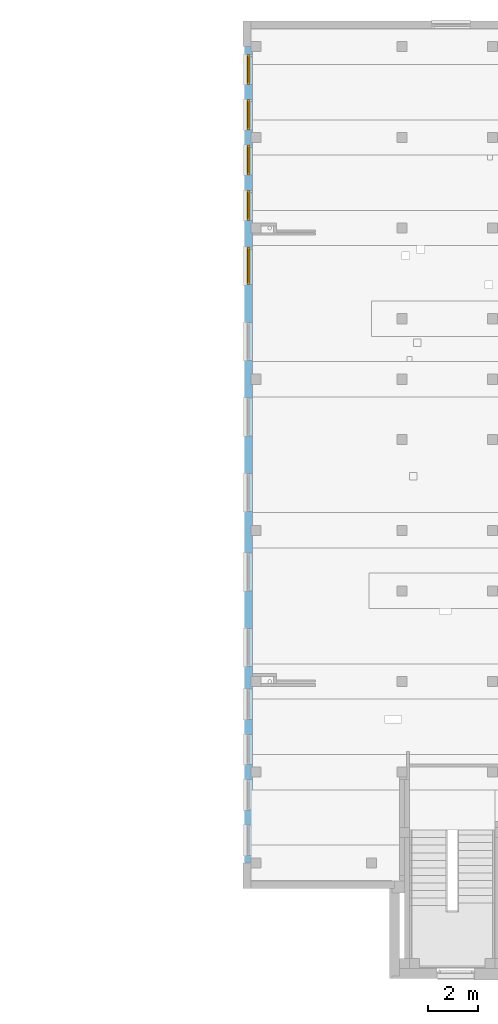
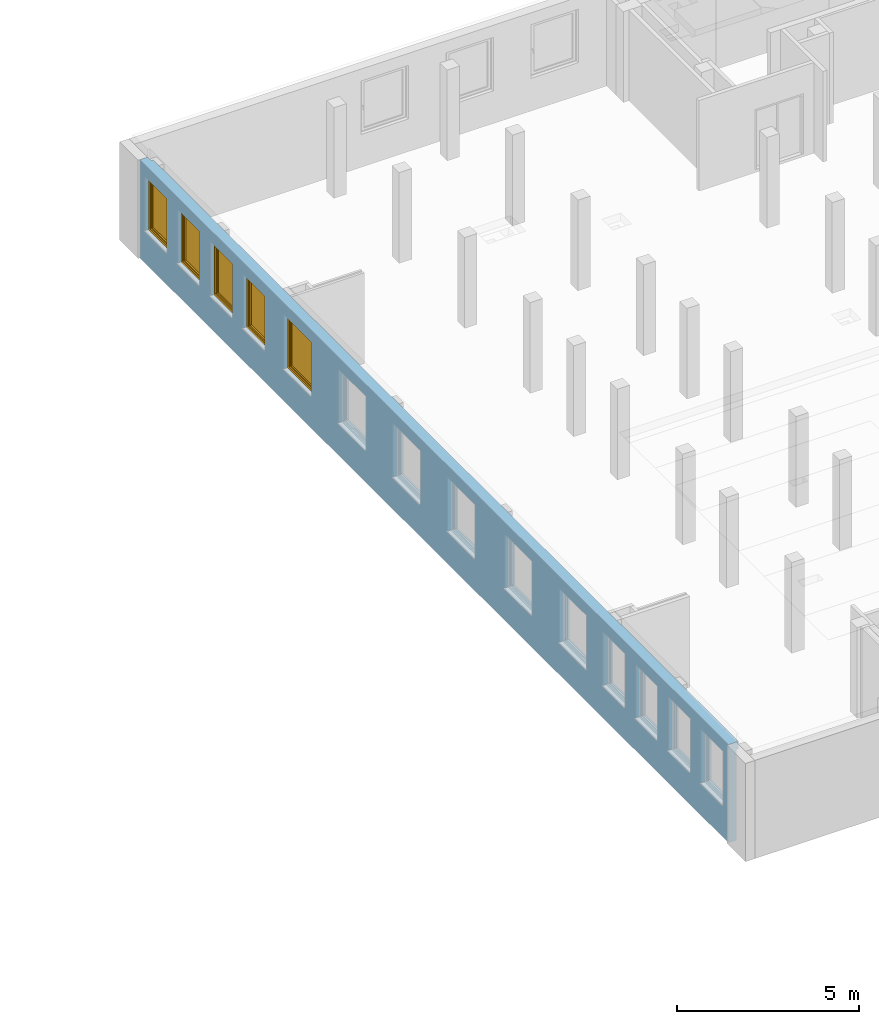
# One storey, part 8 of 27: 5 windows, 14 openings, plus 1 element that does not belong to this part.
"""IFC4 building model written with IfcOpenShell, lengths in metres."""

from ifc_helpers import new_model, entity, si_unit, converted_unit, derived_unit, frame, origin, origin_with_axes, place, context, subcontext, project, spatial, polyline, outline, extrude, clip, bounded_halfspace, closed_shell, open_shell, surface_model, source, transform, mapped, material, layer, layer_set, layer_usage, element, fill, save


model = new_model("IFC4")

# Units and contexts
model_context = context("Model", 3, precision=1e-05, world=origin())
body_context = subcontext(model_context, "Body", "Model", "MODEL_VIEW")
ifc_project = project(units=[si_unit("LENGTHUNIT", "METRE"), si_unit("AREAUNIT", "SQUARE_METRE"), si_unit("VOLUMEUNIT", "CUBIC_METRE"), si_unit("MASSUNIT", "GRAM", prefix="KILO"), converted_unit("PLANEANGLEUNIT", "DEGREE", entity("IfcPlaneAngleMeasure", 0.0174532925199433), si_unit("PLANEANGLEUNIT", "RADIAN"), dimensions=[0, 0, 0, 0, 0, 0, 0]), derived_unit("THERMALTRANSMITTANCEUNIT", [(si_unit("POWERUNIT", "WATT"), 1), (si_unit("THERMODYNAMICTEMPERATUREUNIT", "KELVIN"), -1), (si_unit("LENGTHUNIT", "METRE"), -2)]), derived_unit("VOLUMETRICFLOWRATEUNIT", [(si_unit("LENGTHUNIT", "METRE"), 3), (converted_unit("TIMEUNIT", "hour", entity("IfcTimeMeasure", 3600.0), si_unit("TIMEUNIT", "SECOND"), dimensions=[0, 0, 1, 0, 0, 0, 0]), -1), (si_unit("LENGTHUNIT", "METRE"), -1)])], contexts=[model_context])

# Site, building, storey
site_placement = place(None, origin())
site = spatial("IfcSite", under=ifc_project, at=site_placement, Name="3. ASŘ", CompositionType="ELEMENT")
building_placement = place(site_placement, origin())
building = spatial("IfcBuilding", under=site, at=building_placement, Name="Pavilon C", CompositionType="ELEMENT")
storey_placement = place(building_placement, frame((0.0, 0.0, 10.5)))
storey = spatial("IfcBuildingStorey", under=building, at=storey_placement, Name="Půdorys 4.NP", CompositionType="ELEMENT", Elevation=10.5)

# Wall, openings, windows
ifc_material = material(Name="ZELEZOBETONOVÁ KCE")
ifc_layer = layer(ifc_material, 0.32)
ifc_layer_set = layer_set([ifc_layer])
ifc_layer_usage = layer_usage(ifc_layer_set, "AXIS2", "POSITIVE", 0.0)
wall_placement = place(storey_placement, frame((24.5, 32.4, -0.1), z_axis=(0.0, 0.0, 1.0), x_axis=(-2.24566593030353e-16, -1.0, 0.0)))
wall = element("IfcWall", 1, at=wall_placement, inside=storey, material=ifc_layer_usage, Name="ZELEZOBETONOVÁ KCE", context=body_context, shape_type="Clipping", body=[
    clip(clip(clip(clip(clip(clip(clip(extrude(outline(polyline([(-32.4, 0.0), (-7.18613097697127e-17, -1.61376495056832e-32), (-7.18613097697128e-17, 0.32), (-32.2, 0.32), (-32.2, 0.25), (-32.4, 0.25), (-32.4, 0.0)])), frame((32.4, 0.0, 0.0), z_axis=(0.0, 0.0, 1.0), x_axis=(1.0, 0.0, 0.0)), (0.0, 0.0, 1.0), 3.3), bounded_halfspace(frame((13.2, 0.284999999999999, 3.05), z_axis=(0.0, 0.0, 1.0), x_axis=(2.24566593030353e-16, -1.0, 0.0)), True, origin_with_axes(), polyline([(13.0, 0.319999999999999), (13.0, 0.250000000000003), (13.4, 0.250000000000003), (13.4, 0.319999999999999), (13.0, 0.319999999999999)]))), bounded_halfspace(frame((25.2, 0.284999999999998, 3.05), z_axis=(0.0, 0.0, 1.0), x_axis=(2.24566593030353e-16, -1.0, 0.0)), True, origin_with_axes(), polyline([(25.0, 0.319999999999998), (25.0, 0.249999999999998), (25.4, 0.249999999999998), (25.4, 0.319999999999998), (25.0, 0.319999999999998)]))), bounded_halfspace(frame((28.8, 0.284999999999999, 3.05), z_axis=(0.0, 0.0, 1.0), x_axis=(2.24566593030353e-16, -1.0, 0.0)), True, origin_with_axes(), polyline([(28.6, 0.319999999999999), (28.6, 0.249999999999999), (29.0, 0.249999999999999), (29.0, 0.319999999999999), (28.6, 0.319999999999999)]))), bounded_halfspace(frame((19.2, 0.285000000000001, 3.05), z_axis=(0.0, 0.0, 1.0), x_axis=(2.24566593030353e-16, -1.0, 0.0)), True, origin_with_axes(), polyline([(19.0, 0.320000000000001), (19.0, 0.249999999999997), (19.4, 0.249999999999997), (19.4, 0.320000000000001), (19.0, 0.320000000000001)]))), bounded_halfspace(frame((7.2, 0.285000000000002, 3.05), z_axis=(0.0, 0.0, 1.0), x_axis=(2.24566593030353e-16, -1.0, 0.0)), True, origin_with_axes(), polyline([(7.0, 0.320000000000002), (7.0, 0.250000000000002), (7.4, 0.250000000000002), (7.4, 0.320000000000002), (7.0, 0.320000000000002)]))), bounded_halfspace(frame((32.3, 0.285, 3.05), z_axis=(0.0, 0.0, 1.0), x_axis=(2.24566593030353e-16, -1.0, 0.0)), True, origin_with_axes(), polyline([(32.2, 0.32), (32.2, 0.25), (32.4, 0.25), (32.4, 0.32), (32.2, 0.32)]))), bounded_halfspace(frame((3.6, 0.284999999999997, 3.05), z_axis=(0.0, 0.0, 1.0), x_axis=(2.24566593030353e-16, -1.0, 0.0)), True, origin_with_axes(), polyline([(3.4, 0.320000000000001), (3.4, 0.249999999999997), (3.8, 0.249999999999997), (3.8, 0.320000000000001), (3.4, 0.320000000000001)]))),
])
opening_1_placement = place(wall_placement, frame((30.9, -3.36849889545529e-16, 1.1), z_axis=(0.0, 1.0, 0.0), x_axis=(0.0, 0.0, 1.0)))
element("IfcOpeningElement", 2, at=opening_1_placement, cuts=wall, Name="Okenní otvor", ObjectType="Opening", context=body_context, shape_type="SweptSolid", body=[
    extrude(outline(polyline([(0.0, 1.2), (1.8, 1.2), (1.8, 0.0), (0.0, 0.0), (0.0, 1.2)])), origin_with_axes(), (0.0, 0.0, 1.0), 0.32),
])
opening_2_placement = place(wall_placement, frame((29.1, -7.41069757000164e-16, 1.1), z_axis=(0.0, 1.0, 0.0), x_axis=(0.0, 0.0, 1.0)))
element("IfcOpeningElement", 3, at=opening_2_placement, cuts=wall, Name="Okenní otvor", ObjectType="Opening", context=body_context, shape_type="SweptSolid", body=[
    extrude(outline(polyline([(0.0, 1.2), (1.8, 1.2), (1.8, 0.0), (0.0, 0.0), (0.0, 1.2)])), origin_with_axes(), (0.0, 0.0, 1.0), 0.32),
])
opening_3_placement = place(wall_placement, frame((27.3, -1.1452896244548e-15, 1.1), z_axis=(0.0, 1.0, 0.0), x_axis=(0.0, 0.0, 1.0)))
element("IfcOpeningElement", 4, at=opening_3_placement, cuts=wall, Name="Okenní otvor", ObjectType="Opening", context=body_context, shape_type="SweptSolid", body=[
    extrude(outline(polyline([(0.0, 1.2), (1.8, 1.2), (1.8, 0.0), (0.0, 0.0), (0.0, 1.2)])), origin_with_axes(), (0.0, 0.0, 1.0), 0.32),
])
opening_4_placement = place(wall_placement, frame((25.5, -1.54950949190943e-15, 1.1), z_axis=(0.0, 1.0, 0.0), x_axis=(0.0, 0.0, 1.0)))
element("IfcOpeningElement", 5, at=opening_4_placement, cuts=wall, Name="Okenní otvor", ObjectType="Opening", context=body_context, shape_type="SweptSolid", body=[
    extrude(outline(polyline([(0.0, 1.2), (1.8, 1.2), (1.8, 0.0), (0.0, 0.0), (0.0, 1.2)])), origin_with_axes(), (0.0, 0.0, 1.0), 0.32),
])
opening_5_placement = place(wall_placement, frame((23.1, -2.08846931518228e-15, 1.1), z_axis=(0.0, 1.0, 0.0), x_axis=(0.0, 0.0, 1.0)))
element("IfcOpeningElement", 6, at=opening_5_placement, cuts=wall, Name="Okenní otvor", ObjectType="Opening", context=body_context, shape_type="SweptSolid", body=[
    extrude(outline(polyline([(0.0, 1.5), (1.8, 1.5), (1.8, 0.0), (0.0, 0.0), (0.0, 1.5)])), origin_with_axes(), (0.0, 0.0, 1.0), 0.320000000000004),
])
opening_6_placement = place(wall_placement, frame((20.1, 8.75809712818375e-16, 1.1), z_axis=(0.0, 1.0, 0.0), x_axis=(0.0, 0.0, 1.0)))
element("IfcOpeningElement", 7, at=opening_6_placement, cuts=wall, Name="Okenní otvor", ObjectType="Opening", context=body_context, shape_type="SweptSolid", body=[
    extrude(outline(polyline([(0.0, 1.5), (1.8, 1.5), (1.8, 0.0), (0.0, 0.0), (0.0, 1.5)])), origin_with_axes(), (0.0, 0.0, 1.0), 0.32),
])
opening_7_placement = place(wall_placement, frame((16.95, 1.68424944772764e-16, 1.1), z_axis=(0.0, 1.0, 0.0), x_axis=(0.0, 0.0, 1.0)))
element("IfcOpeningElement", 8, at=opening_7_placement, cuts=wall, Name="Okenní otvor", ObjectType="Opening", context=body_context, shape_type="SweptSolid", body=[
    extrude(outline(polyline([(0.0, 1.5), (1.8, 1.5), (1.8, 0.0), (0.0, 0.0), (0.0, 1.5)])), origin_with_axes(), (0.0, 0.0, 1.0), 0.32),
])
opening_8_placement = place(wall_placement, frame((13.95, -5.05274834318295e-16, 1.1), z_axis=(0.0, 1.0, 0.0), x_axis=(0.0, 0.0, 1.0)))
element("IfcOpeningElement", 9, at=opening_8_placement, cuts=wall, Name="Okenní otvor", ObjectType="Opening", context=body_context, shape_type="SweptSolid", body=[
    extrude(outline(polyline([(0.0, 1.5), (1.8, 1.5), (1.8, 0.0), (0.0, 0.0), (0.0, 1.5)])), origin_with_axes(), (0.0, 0.0, 1.0), 0.32),
])
opening_9_placement = place(wall_placement, frame((10.95, -1.17897461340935e-15, 1.1), z_axis=(0.0, 1.0, 0.0), x_axis=(0.0, 0.0, 1.0)))
element("IfcOpeningElement", 10, at=opening_9_placement, cuts=wall, Name="Okenní otvor", ObjectType="Opening", context=body_context, shape_type="SweptSolid", body=[
    extrude(outline(polyline([(0.0, 1.5), (1.8, 1.5), (1.8, 0.0), (0.0, 0.0), (0.0, 1.5)])), origin_with_axes(), (0.0, 0.0, 1.0), 0.32),
])
opening_10_placement = place(wall_placement, frame((7.95, -1.85267439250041e-15, 1.1), z_axis=(0.0, 1.0, 0.0), x_axis=(0.0, 0.0, 1.0)))
opening_10 = element("IfcOpeningElement", 11, at=opening_10_placement, cuts=wall, Name="Okenní otvor", ObjectType="Opening", context=body_context, shape_type="SweptSolid", body=[
    extrude(outline(polyline([(0.0, 1.5), (1.8, 1.5), (1.8, 0.0), (0.0, 0.0), (0.0, 1.5)])), origin_with_axes(), (0.0, 0.0, 1.0), 0.320000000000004),
])
opening_11_placement = place(wall_placement, frame((5.7, 1.28002958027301e-15, 1.1), z_axis=(0.0, 1.0, 0.0), x_axis=(0.0, 0.0, 1.0)))
opening_11 = element("IfcOpeningElement", 12, at=opening_11_placement, cuts=wall, Name="Okenní otvor", ObjectType="Opening", context=body_context, shape_type="SweptSolid", body=[
    extrude(outline(polyline([(0.0, 1.2), (1.8, 1.2), (1.8, 0.0), (0.0, 0.0), (0.0, 1.2)])), origin_with_axes(), (0.0, 0.0, 1.0), 0.32),
])
opening_12_placement = place(wall_placement, frame((3.90000000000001, 8.75809712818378e-16, 1.1), z_axis=(0.0, 1.0, 0.0), x_axis=(0.0, 0.0, 1.0)))
opening_12 = element("IfcOpeningElement", 13, at=opening_12_placement, cuts=wall, Name="Okenní otvor", ObjectType="Opening", context=body_context, shape_type="SweptSolid", body=[
    extrude(outline(polyline([(0.0, 1.2), (1.8, 1.2), (1.8, 0.0), (0.0, 0.0), (0.0, 1.2)])), origin_with_axes(), (0.0, 0.0, 1.0), 0.32),
])
opening_13_placement = place(wall_placement, frame((2.10000000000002, 4.71589845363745e-16, 1.1), z_axis=(0.0, 1.0, 0.0), x_axis=(0.0, 0.0, 1.0)))
opening_13 = element("IfcOpeningElement", 14, at=opening_13_placement, cuts=wall, Name="Okenní otvor", ObjectType="Opening", context=body_context, shape_type="SweptSolid", body=[
    extrude(outline(polyline([(0.0, 1.2), (1.8, 1.2), (1.8, 0.0), (0.0, 0.0), (0.0, 1.2)])), origin_with_axes(), (0.0, 0.0, 1.0), 0.32),
])
opening_14_placement = place(wall_placement, frame((0.300000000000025, 6.73699779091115e-17, 1.1), z_axis=(-1.77635683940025e-16, 1.0, 0.0), x_axis=(0.0, 0.0, 1.0)))
opening_14 = element("IfcOpeningElement", 15, at=opening_14_placement, cuts=wall, Name="Okenní otvor", ObjectType="Opening", context=body_context, shape_type="SweptSolid", body=[
    extrude(outline(polyline([(0.0, 1.2), (1.8, 1.2), (1.8, 0.0), (0.0, 0.0), (0.0, 1.2)])), origin_with_axes(), (0.0, 0.0, 1.0), 0.32),
])
shared_shape_1 = source(origin_with_axes(), body_context, "Body", "SurfaceModel", [
    surface_model("IfcShellBasedSurfaceModel", [(0.0, 0.182, 1.8), (0.0, 0.182, -5.63337527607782e-18), (0.08, 0.182, -5.63337527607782e-18), (0.08, 0.182, 1.8), (0.0, 0.0899999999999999, 5.63337527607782e-18), (0.0, 0.0900000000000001, 1.8), (0.08, 0.0900000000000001, 1.8), (0.08, 0.0899999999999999, 5.63337527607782e-18)], [closed_shell([[[0, 1, 2, 3]], [[4, 5, 6, 7]], [[1, 0, 5, 4]], [[2, 1, 4, 7]], [[3, 2, 7, 6]], [[0, 3, 6, 5]]], orient=[[False], [False], [False], [False], [False], [False]])]),
    surface_model("IfcShellBasedSurfaceModel", [(1.12, 0.182, 1.8), (1.12, 0.182, -5.63337527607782e-18), (1.2, 0.182, -5.63337527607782e-18), (1.2, 0.182, 1.8), (1.12, 0.0899999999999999, 5.63337527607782e-18), (1.12, 0.0900000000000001, 1.8), (1.2, 0.0900000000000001, 1.8), (1.2, 0.0899999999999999, 5.63337527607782e-18)], [closed_shell([[[0, 1, 2, 3]], [[4, 5, 6, 7]], [[1, 0, 5, 4]], [[2, 1, 4, 7]], [[3, 2, 7, 6]], [[0, 3, 6, 5]]], orient=[[False], [False], [False], [False], [False], [False]])]),
    surface_model("IfcShellBasedSurfaceModel", [(0.08, 0.182, 0.08), (0.08, 0.182, -5.63337527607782e-18), (1.12, 0.182, -5.63337527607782e-18), (1.12, 0.182, 0.08), (0.08, 0.0899999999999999, 5.63337527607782e-18), (0.08, 0.0899999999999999, 0.08), (1.12, 0.0899999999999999, 0.08), (1.12, 0.0899999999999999, 5.63337527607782e-18)], [closed_shell([[[0, 1, 2, 3]], [[4, 5, 6, 7]], [[1, 0, 5, 4]], [[2, 1, 4, 7]], [[3, 2, 7, 6]], [[0, 3, 6, 5]]], orient=[[False], [False], [False], [False], [False], [False]])]),
    surface_model("IfcShellBasedSurfaceModel", [(0.08, 0.182, 1.8), (0.08, 0.182, 1.72), (1.12, 0.182, 1.72), (1.12, 0.182, 1.8), (0.08, 0.0900000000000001, 1.72), (0.08, 0.0900000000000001, 1.8), (1.12, 0.0900000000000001, 1.8), (1.12, 0.0900000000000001, 1.72)], [closed_shell([[[0, 1, 2, 3]], [[4, 5, 6, 7]], [[1, 0, 5, 4]], [[2, 1, 4, 7]], [[3, 2, 7, 6]], [[0, 3, 6, 5]]], orient=[[False], [False], [False], [False], [False], [False]])]),
    surface_model("IfcShellBasedSurfaceModel", [(0.05, 0.145, 1.75), (0.05, 0.145, 0.05), (0.13, 0.145, 0.05), (0.13, 0.145, 1.75), (0.05, 0.0599999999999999, 0.05), (0.05, 0.0600000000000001, 1.75), (0.13, 0.0600000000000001, 1.75), (0.13, 0.0599999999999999, 0.05)], [closed_shell([[[0, 1, 2, 3]], [[4, 5, 6, 7]], [[1, 0, 5, 4]], [[2, 1, 4, 7]], [[3, 2, 7, 6]], [[0, 3, 6, 5]]], orient=[[False], [False], [False], [False], [False], [False]])]),
    surface_model("IfcShellBasedSurfaceModel", [(1.07, 0.145, 1.75), (1.07, 0.145, 0.05), (1.15, 0.145, 0.05), (1.15, 0.145, 1.75), (1.07, 0.0599999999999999, 0.05), (1.07, 0.0600000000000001, 1.75), (1.15, 0.0600000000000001, 1.75), (1.15, 0.0599999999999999, 0.05)], [closed_shell([[[0, 1, 2, 3]], [[4, 5, 6, 7]], [[1, 0, 5, 4]], [[2, 1, 4, 7]], [[3, 2, 7, 6]], [[0, 3, 6, 5]]], orient=[[False], [False], [False], [False], [False], [False]])]),
    surface_model("IfcShellBasedSurfaceModel", [(0.13, 0.145, 0.13), (0.13, 0.145, 0.05), (1.07, 0.145, 0.05), (1.07, 0.145, 0.13), (0.13, 0.0599999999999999, 0.05), (0.13, 0.0599999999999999, 0.13), (1.07, 0.0599999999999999, 0.13), (1.07, 0.0599999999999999, 0.05)], [closed_shell([[[0, 1, 2, 3]], [[4, 5, 6, 7]], [[1, 0, 5, 4]], [[2, 1, 4, 7]], [[3, 2, 7, 6]], [[0, 3, 6, 5]]], orient=[[False], [False], [False], [False], [False], [False]])]),
    surface_model("IfcShellBasedSurfaceModel", [(0.13, 0.145, 1.75), (0.13, 0.145, 1.67), (1.07, 0.145, 1.67), (1.07, 0.145, 1.75), (0.13, 0.0600000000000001, 1.67), (0.13, 0.0600000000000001, 1.75), (1.07, 0.0600000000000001, 1.75), (1.07, 0.0600000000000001, 1.67)], [closed_shell([[[0, 1, 2, 3]], [[4, 5, 6, 7]], [[1, 0, 5, 4]], [[2, 1, 4, 7]], [[3, 2, 7, 6]], [[0, 3, 6, 5]]], orient=[[False], [False], [False], [False], [False], [False]])]),
    surface_model("IfcShellBasedSurfaceModel", [(1.0975, 0.06, 0.92), (1.0975, 0.06, 0.88), (1.1225, 0.06, 0.88), (1.1225, 0.06, 0.92), (1.0975, 0.05, 0.88), (1.0975, 0.05, 0.92), (1.1225, 0.05, 0.92), (1.1225, 0.05, 0.88)], [closed_shell([[[0, 1, 2, 3]], [[4, 5, 6, 7]], [[1, 0, 5, 4]], [[2, 1, 4, 7]], [[3, 2, 7, 6]], [[0, 3, 6, 5]]], orient=[[False], [False], [False], [False], [False], [False]])]),
    surface_model("IfcShellBasedSurfaceModel", [(1.12, 0.05, 0.9), (1.11866025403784, 0.05, 0.905), (1.115, 0.05, 0.908660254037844), (1.11, 0.05, 0.91), (1.105, 0.05, 0.908660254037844), (1.10133974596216, 0.05, 0.905), (1.1, 0.05, 0.9), (1.10133974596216, 0.05, 0.895), (1.105, 0.05, 0.891339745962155), (1.11, 0.05, 0.89), (1.115, 0.05, 0.891339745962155), (1.11866025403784, 0.05, 0.895), (1.12, 0.01, 0.9), (1.11866025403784, 0.00500000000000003, 0.905), (1.115, 0.00133974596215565, 0.908660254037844), (1.11, 2.8421709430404e-17, 0.91), (1.105, 0.00133974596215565, 0.908660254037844), (1.10133974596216, 0.00500000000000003, 0.905), (1.1, 0.01, 0.9), (1.10133974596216, 0.015, 0.895), (1.105, 0.0186602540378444, 0.891339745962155), (1.11, 0.02, 0.89), (1.115, 0.0186602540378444, 0.891339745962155), (1.11866025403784, 0.015, 0.895), (1.12, 0.01, 0.785), (1.11866025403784, 0.005, 0.785), (1.115, 0.00133974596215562, 0.785), (1.11, 0.0, 0.785), (1.105, 0.00133974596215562, 0.785), (1.10133974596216, 0.005, 0.785), (1.1, 0.01, 0.785), (1.10133974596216, 0.015, 0.785), (1.105, 0.0186602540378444, 0.785), (1.11, 0.02, 0.785), (1.115, 0.0186602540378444, 0.785), (1.11866025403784, 0.015, 0.785)], [open_shell([[[0, 1, 2, 3, 4, 5, 6, 7, 8, 9, 10, 11]], [[0, 12, 13, 1]], [[1, 13, 14, 2]], [[2, 14, 15, 3]], [[3, 15, 16, 4]], [[4, 16, 17, 5]], [[5, 17, 18, 6]], [[6, 18, 19, 7]], [[7, 19, 20, 8]], [[8, 20, 21, 9]], [[9, 21, 22, 10]], [[10, 22, 23, 11]], [[11, 23, 12, 0]], [[12, 24, 25, 13]], [[13, 25, 26, 14]], [[14, 26, 27, 15]], [[15, 27, 28, 16]], [[16, 28, 29, 17]], [[17, 29, 30, 18]], [[18, 30, 31, 19]], [[19, 31, 32, 20]], [[20, 32, 33, 21]], [[21, 33, 34, 22]], [[22, 34, 35, 23]], [[23, 35, 24, 12]]], orient=[[False], [False], [False], [False], [False], [False], [False], [False], [False], [False], [False], [False], [False], [False], [False], [False], [False], [False], [False], [False], [False], [False], [False], [False], [False]])]),
    surface_model("IfcShellBasedSurfaceModel", [(0.13, 0.1025, 0.13), (1.07, 0.1025, 0.13), (1.07, 0.1025, 1.67), (0.13, 0.1025, 1.67)], [open_shell([[[0, 1, 2, 3]]], orient=[[False]])]),
])
window_1_placement = place(opening_11_placement, frame((0.0, 1.20000000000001, 0.281999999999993), z_axis=(1.0, 0.0, 0.0), x_axis=(0.0, -1.0, -1.02101913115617e-16)))
window_1 = element("IfcWindow", 16, at=window_1_placement, inside=storey, Name="O06", OverallHeight=1.8, OverallWidth=1.2, PartitioningType="USERDEFINED", PredefinedType="WINDOW", context=body_context, shape_type="MappedRepresentation", body=[
    mapped(shared_shape_1, transform((0.0, 0.0, 0.0), x_axis=(1.0, 0.0, 0.0), y_axis=(0.0, 1.0, 0.0), z_axis=(0.0, 0.0, 1.0), scale=1.0)),
])
fill(opening_11, window_1)
window_2_placement = place(opening_12_placement, frame((0.0, 1.20000000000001, 0.281999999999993), z_axis=(1.0, 0.0, 0.0), x_axis=(0.0, -1.0, -1.02101913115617e-16)))
window_2 = element("IfcWindow", 17, at=window_2_placement, inside=storey, Name="O06", OverallHeight=1.8, OverallWidth=1.2, PartitioningType="USERDEFINED", PredefinedType="WINDOW", context=body_context, shape_type="MappedRepresentation", body=[
    mapped(shared_shape_1, transform((0.0, 0.0, 0.0), x_axis=(1.0, 0.0, 0.0), y_axis=(0.0, 1.0, 0.0), z_axis=(0.0, 0.0, 1.0), scale=1.0)),
])
fill(opening_12, window_2)
window_3_placement = place(opening_13_placement, frame((0.0, 1.20000000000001, 0.281999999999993), z_axis=(1.0, 0.0, 0.0), x_axis=(0.0, -1.0, -1.02101913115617e-16)))
window_3 = element("IfcWindow", 18, at=window_3_placement, inside=storey, Name="O06", OverallHeight=1.8, OverallWidth=1.2, PartitioningType="USERDEFINED", PredefinedType="WINDOW", context=body_context, shape_type="MappedRepresentation", body=[
    mapped(shared_shape_1, transform((0.0, 0.0, 0.0), x_axis=(1.0, 0.0, 0.0), y_axis=(0.0, 1.0, 0.0), z_axis=(0.0, 0.0, 1.0), scale=1.0)),
])
fill(opening_13, window_3)
window_4_placement = place(opening_14_placement, frame((0.0, 1.20000000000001, 0.281999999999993), z_axis=(1.0, 0.0, 0.0), x_axis=(0.0, -1.0, 7.55337708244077e-17)))
window_4 = element("IfcWindow", 19, at=window_4_placement, inside=storey, Name="O06", OverallHeight=1.8, OverallWidth=1.2, PartitioningType="USERDEFINED", PredefinedType="WINDOW", context=body_context, shape_type="MappedRepresentation", body=[
    mapped(shared_shape_1, transform((0.0, 0.0, 0.0), x_axis=(1.0, 0.0, 0.0), y_axis=(0.0, 1.0, 0.0), z_axis=(0.0, 0.0, 1.0), scale=1.0)),
])
fill(opening_14, window_4)
shared_shape_2 = source(origin_with_axes(), body_context, "Body", "SurfaceModel", [
    surface_model("IfcShellBasedSurfaceModel", [(0.0, 0.182, 1.8), (0.0, 0.182, -5.63337527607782e-18), (0.08, 0.182, -5.63337527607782e-18), (0.08, 0.182, 1.8), (0.0, 0.0899999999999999, 5.63337527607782e-18), (0.0, 0.0900000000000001, 1.8), (0.08, 0.0900000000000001, 1.8), (0.08, 0.0899999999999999, 5.63337527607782e-18)], [closed_shell([[[0, 1, 2, 3]], [[4, 5, 6, 7]], [[1, 0, 5, 4]], [[2, 1, 4, 7]], [[3, 2, 7, 6]], [[0, 3, 6, 5]]], orient=[[False], [False], [False], [False], [False], [False]])]),
    surface_model("IfcShellBasedSurfaceModel", [(1.42, 0.182, 1.8), (1.42, 0.182, -5.63337527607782e-18), (1.5, 0.182, -5.63337527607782e-18), (1.5, 0.182, 1.8), (1.42, 0.0899999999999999, 5.63337527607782e-18), (1.42, 0.0900000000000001, 1.8), (1.5, 0.0900000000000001, 1.8), (1.5, 0.0899999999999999, 5.63337527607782e-18)], [closed_shell([[[0, 1, 2, 3]], [[4, 5, 6, 7]], [[1, 0, 5, 4]], [[2, 1, 4, 7]], [[3, 2, 7, 6]], [[0, 3, 6, 5]]], orient=[[False], [False], [False], [False], [False], [False]])]),
    surface_model("IfcShellBasedSurfaceModel", [(0.08, 0.182, 0.08), (0.08, 0.182, -5.63337527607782e-18), (1.42, 0.182, -5.63337527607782e-18), (1.42, 0.182, 0.08), (0.08, 0.0899999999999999, 5.63337527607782e-18), (0.08, 0.0899999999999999, 0.08), (1.42, 0.0899999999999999, 0.08), (1.42, 0.0899999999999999, 5.63337527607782e-18)], [closed_shell([[[0, 1, 2, 3]], [[4, 5, 6, 7]], [[1, 0, 5, 4]], [[2, 1, 4, 7]], [[3, 2, 7, 6]], [[0, 3, 6, 5]]], orient=[[False], [False], [False], [False], [False], [False]])]),
    surface_model("IfcShellBasedSurfaceModel", [(0.08, 0.182, 1.8), (0.08, 0.182, 1.72), (1.42, 0.182, 1.72), (1.42, 0.182, 1.8), (0.08, 0.0900000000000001, 1.72), (0.08, 0.0900000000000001, 1.8), (1.42, 0.0900000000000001, 1.8), (1.42, 0.0900000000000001, 1.72)], [closed_shell([[[0, 1, 2, 3]], [[4, 5, 6, 7]], [[1, 0, 5, 4]], [[2, 1, 4, 7]], [[3, 2, 7, 6]], [[0, 3, 6, 5]]], orient=[[False], [False], [False], [False], [False], [False]])]),
    surface_model("IfcShellBasedSurfaceModel", [(0.05, 0.145, 1.75), (0.05, 0.145, 0.05), (0.13, 0.145, 0.05), (0.13, 0.145, 1.75), (0.05, 0.0599999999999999, 0.05), (0.05, 0.0600000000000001, 1.75), (0.13, 0.0600000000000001, 1.75), (0.13, 0.0599999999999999, 0.05)], [closed_shell([[[0, 1, 2, 3]], [[4, 5, 6, 7]], [[1, 0, 5, 4]], [[2, 1, 4, 7]], [[3, 2, 7, 6]], [[0, 3, 6, 5]]], orient=[[False], [False], [False], [False], [False], [False]])]),
    surface_model("IfcShellBasedSurfaceModel", [(1.37, 0.145, 1.75), (1.37, 0.145, 0.05), (1.45, 0.145, 0.05), (1.45, 0.145, 1.75), (1.37, 0.0599999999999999, 0.05), (1.37, 0.0600000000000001, 1.75), (1.45, 0.0600000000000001, 1.75), (1.45, 0.0599999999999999, 0.05)], [closed_shell([[[0, 1, 2, 3]], [[4, 5, 6, 7]], [[1, 0, 5, 4]], [[2, 1, 4, 7]], [[3, 2, 7, 6]], [[0, 3, 6, 5]]], orient=[[False], [False], [False], [False], [False], [False]])]),
    surface_model("IfcShellBasedSurfaceModel", [(0.13, 0.145, 0.13), (0.13, 0.145, 0.05), (1.37, 0.145, 0.05), (1.37, 0.145, 0.13), (0.13, 0.0599999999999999, 0.05), (0.13, 0.0599999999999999, 0.13), (1.37, 0.0599999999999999, 0.13), (1.37, 0.0599999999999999, 0.05)], [closed_shell([[[0, 1, 2, 3]], [[4, 5, 6, 7]], [[1, 0, 5, 4]], [[2, 1, 4, 7]], [[3, 2, 7, 6]], [[0, 3, 6, 5]]], orient=[[False], [False], [False], [False], [False], [False]])]),
    surface_model("IfcShellBasedSurfaceModel", [(0.13, 0.145, 1.75), (0.13, 0.145, 1.67), (1.37, 0.145, 1.67), (1.37, 0.145, 1.75), (0.13, 0.0600000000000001, 1.67), (0.13, 0.0600000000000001, 1.75), (1.37, 0.0600000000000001, 1.75), (1.37, 0.0600000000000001, 1.67)], [closed_shell([[[0, 1, 2, 3]], [[4, 5, 6, 7]], [[1, 0, 5, 4]], [[2, 1, 4, 7]], [[3, 2, 7, 6]], [[0, 3, 6, 5]]], orient=[[False], [False], [False], [False], [False], [False]])]),
    surface_model("IfcShellBasedSurfaceModel", [(1.3975, 0.06, 0.92), (1.3975, 0.06, 0.88), (1.4225, 0.06, 0.88), (1.4225, 0.06, 0.92), (1.3975, 0.05, 0.88), (1.3975, 0.05, 0.92), (1.4225, 0.05, 0.92), (1.4225, 0.05, 0.88)], [closed_shell([[[0, 1, 2, 3]], [[4, 5, 6, 7]], [[1, 0, 5, 4]], [[2, 1, 4, 7]], [[3, 2, 7, 6]], [[0, 3, 6, 5]]], orient=[[False], [False], [False], [False], [False], [False]])]),
    surface_model("IfcShellBasedSurfaceModel", [(1.42, 0.05, 0.9), (1.41866025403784, 0.05, 0.905), (1.415, 0.05, 0.908660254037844), (1.41, 0.05, 0.91), (1.405, 0.05, 0.908660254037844), (1.40133974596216, 0.05, 0.905), (1.4, 0.05, 0.9), (1.40133974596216, 0.05, 0.895), (1.405, 0.05, 0.891339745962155), (1.41, 0.05, 0.89), (1.415, 0.05, 0.891339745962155), (1.41866025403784, 0.05, 0.895), (1.42, 0.01, 0.9), (1.41866025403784, 0.00500000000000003, 0.905), (1.415, 0.00133974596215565, 0.908660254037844), (1.41, 2.8421709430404e-17, 0.91), (1.405, 0.00133974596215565, 0.908660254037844), (1.40133974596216, 0.00500000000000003, 0.905), (1.4, 0.01, 0.9), (1.40133974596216, 0.015, 0.895), (1.405, 0.0186602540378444, 0.891339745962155), (1.41, 0.02, 0.89), (1.415, 0.0186602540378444, 0.891339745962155), (1.41866025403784, 0.015, 0.895), (1.42, 0.01, 0.785), (1.41866025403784, 0.005, 0.785), (1.415, 0.00133974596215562, 0.785), (1.41, 0.0, 0.785), (1.405, 0.00133974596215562, 0.785), (1.40133974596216, 0.005, 0.785), (1.4, 0.01, 0.785), (1.40133974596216, 0.015, 0.785), (1.405, 0.0186602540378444, 0.785), (1.41, 0.02, 0.785), (1.415, 0.0186602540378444, 0.785), (1.41866025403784, 0.015, 0.785)], [open_shell([[[0, 1, 2, 3, 4, 5, 6, 7, 8, 9, 10, 11]], [[0, 12, 13, 1]], [[1, 13, 14, 2]], [[2, 14, 15, 3]], [[3, 15, 16, 4]], [[4, 16, 17, 5]], [[5, 17, 18, 6]], [[6, 18, 19, 7]], [[7, 19, 20, 8]], [[8, 20, 21, 9]], [[9, 21, 22, 10]], [[10, 22, 23, 11]], [[11, 23, 12, 0]], [[12, 24, 25, 13]], [[13, 25, 26, 14]], [[14, 26, 27, 15]], [[15, 27, 28, 16]], [[16, 28, 29, 17]], [[17, 29, 30, 18]], [[18, 30, 31, 19]], [[19, 31, 32, 20]], [[20, 32, 33, 21]], [[21, 33, 34, 22]], [[22, 34, 35, 23]], [[23, 35, 24, 12]]], orient=[[False], [False], [False], [False], [False], [False], [False], [False], [False], [False], [False], [False], [False], [False], [False], [False], [False], [False], [False], [False], [False], [False], [False], [False], [False]])]),
    surface_model("IfcShellBasedSurfaceModel", [(0.13, 0.1025, 0.13), (1.37, 0.1025, 0.13), (1.37, 0.1025, 1.67), (0.13, 0.1025, 1.67)], [open_shell([[[0, 1, 2, 3]]], orient=[[False]])]),
])
window_5_placement = place(opening_10_placement, frame((0.0, 1.50000000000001, 0.281999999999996), z_axis=(1.0, 0.0, 0.0), x_axis=(0.0, -1.0, -1.02101913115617e-16)))
window_5 = element("IfcWindow", 20, at=window_5_placement, inside=storey, Name="O06", OverallHeight=1.8, OverallWidth=1.5, PartitioningType="USERDEFINED", PredefinedType="WINDOW", context=body_context, shape_type="MappedRepresentation", body=[
    mapped(shared_shape_2, transform((0.0, 0.0, 0.0), x_axis=(1.0, 0.0, 0.0), y_axis=(0.0, 1.0, 0.0), z_axis=(0.0, 0.0, 1.0), scale=1.0)),
])
fill(opening_10, window_5)

save(model, "model.ifc")
